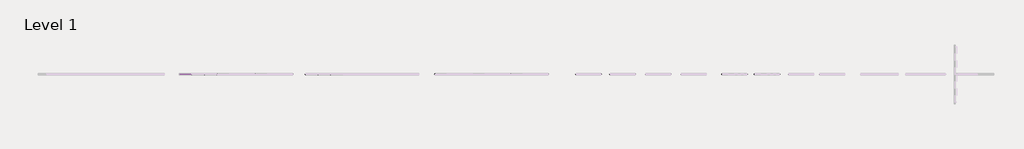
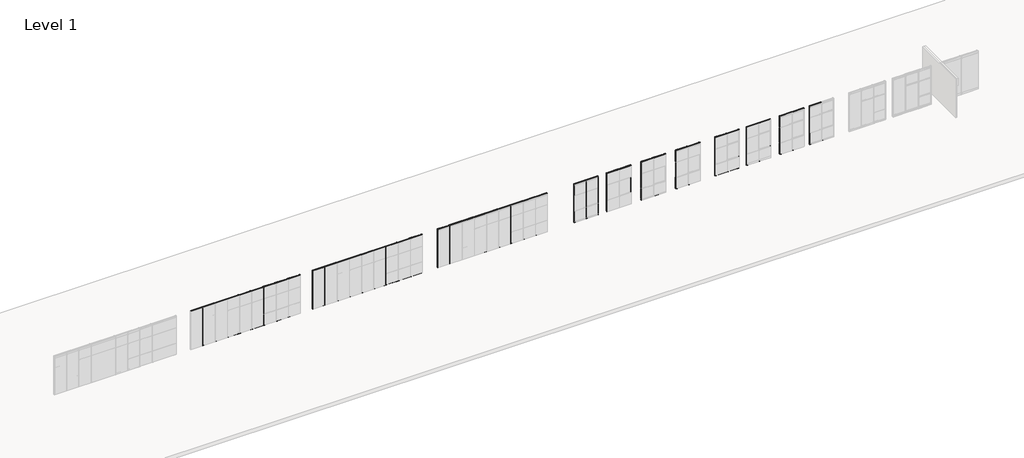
# One storey, part 2 of 22: 135 members.
"""IFC4 building model written with IfcOpenShell, lengths in millimetres."""

from ifc_helpers import new_model, si_unit, origin, place, context, project, spatial, transform, mapped, element, save
from components import rectangular_mullion_54c82f83, rectangular_mullion_553b35be, rectangular_mullion_d5ff06bb, rectangular_mullion_frame_teknion_vertical_post_05f5e206, rectangular_mullion_frame_teknion_vertical_post_5ea4eea9, rectangular_mullion_frame_teknion_vertical_post_1fa3a907

model = new_model("IFC4")

# Units and contexts
model_context = context("Model", 3, world=origin())
ifc_project = project(units=[si_unit("LENGTHUNIT", "METRE", prefix="MILLI")], contexts=[model_context])

# Site, building, storey
site = spatial("IfcSite", under=ifc_project)
building = spatial("IfcBuilding", under=site)
storey = spatial("IfcBuildingStorey", under=building, Name="Level 1", Elevation=0.0)

# Members
placement = place(None, origin())
rectangular_mullion_shape = rectangular_mullion_54c82f83(model_context)
element("IfcMember", 1, ObjectType="Rectangular Mullion : Frame-Teknion-Altos-Ceiling_Channel", at=placement, inside=storey, context=model_context, shape_type="MappedRepresentation", body=[
    mapped(rectangular_mullion_shape, transform((-22491.9930996, 1812.3522105, 3048.0), x_axis=(0.0, 0.0, 1.0), y_axis=(0.0, -1.0, 0.0), z_axis=(1.0, 0.0, 0.0))),
])
element("IfcMember", 2, ObjectType="Rectangular Mullion : Frame-Teknion-Altos-Ceiling_Channel", at=placement, inside=storey, context=model_context, shape_type="MappedRepresentation", body=[
    mapped(rectangular_mullion_shape, transform((-20028.1930996, 1812.3522105, 3048.0), x_axis=(0.0, 0.0, 1.0), y_axis=(0.0, -1.0, 0.0), z_axis=(1.0, 0.0, 0.0))),
])
element("IfcMember", 3, ObjectType="Rectangular Mullion : Frame-Teknion-Altos-Ceiling_Channel", at=placement, inside=storey, context=model_context, shape_type="MappedRepresentation", body=[
    mapped(rectangular_mullion_shape, transform((-17450.0930996, 1812.3522105, 3048.0), x_axis=(0.0, 0.0, 1.0), y_axis=(0.0, -1.0, 0.0), z_axis=(1.0, 0.0, 0.0))),
])
element("IfcMember", 4, ObjectType="Rectangular Mullion : Frame-Teknion-Altos-Ceiling_Channel", at=placement, inside=storey, context=model_context, shape_type="MappedRepresentation", body=[
    mapped(rectangular_mullion_shape, transform((-14871.9930996, 1812.3522105, 3048.0), x_axis=(0.0, 0.0, 1.0), y_axis=(0.0, -1.0, 0.0), z_axis=(1.0, 0.0, 0.0))),
])
element("IfcMember", 5, ObjectType="Rectangular Mullion : Frame-Teknion-Altos-Ceiling_Channel", at=placement, inside=storey, context=model_context, shape_type="MappedRepresentation", body=[
    mapped(rectangular_mullion_shape, transform((-44835.9484319, 1812.3522105, 3048.0), x_axis=(0.0, 0.0, 1.0), y_axis=(0.0, -1.0, 0.0), z_axis=(1.0, 0.0, 0.0))),
])
element("IfcMember", 6, ObjectType="Rectangular Mullion : Frame-Teknion-Altos-Ceiling_Channel", at=placement, inside=storey, context=model_context, shape_type="MappedRepresentation", body=[
    mapped(rectangular_mullion_shape, transform((-35691.9484319, 1812.3522105, 3048.0), x_axis=(0.0, 0.0, 1.0), y_axis=(0.0, -1.0, 0.0), z_axis=(1.0, 0.0, 0.0))),
])
element("IfcMember", 7, ObjectType="Rectangular Mullion : Frame-Teknion-Altos-Ceiling_Channel", at=placement, inside=storey, context=model_context, shape_type="MappedRepresentation", body=[
    mapped(rectangular_mullion_shape, transform((-26325.4676646, 1812.3522105, 3048.0), x_axis=(0.0, 0.0, 1.0), y_axis=(0.0, -1.0, 0.0), z_axis=(1.0, 0.0, 0.0))),
])
element("IfcMember", 8, ObjectType="Rectangular Mullion : Frame-Teknion-Altos-Ceiling_Channel", at=placement, inside=storey, context=model_context, shape_type="MappedRepresentation", body=[
    mapped(rectangular_mullion_shape, transform((-52137.1585882, 1812.3522105, 3048.0), x_axis=(0.0, 0.0, 1.0), y_axis=(0.0, -1.0, 0.0), z_axis=(1.0, 0.0, 0.0))),
])
element("IfcMember", 9, ObjectType="Rectangular Mullion : Frame-Teknion-Altos-Ceiling_Channel", at=placement, inside=storey, context=model_context, shape_type="MappedRepresentation", body=[
    mapped(rectangular_mullion_shape, transform((-42993.1585882, 1812.3522105, 3048.0), x_axis=(0.0, 0.0, 1.0), y_axis=(0.0, -1.0, 0.0), z_axis=(1.0, 0.0, 0.0))),
])
element("IfcMember", 10, ObjectType="Rectangular Mullion : Frame-Teknion-Altos-Ceiling_Channel", at=placement, inside=storey, context=model_context, shape_type="MappedRepresentation", body=[
    mapped(rectangular_mullion_shape, transform((-33626.6778208, 1812.3522105, 3048.0), x_axis=(0.0, 0.0, 1.0), y_axis=(0.0, -1.0, 0.0), z_axis=(1.0, 0.0, 0.0))),
])
element("IfcMember", 11, ObjectType="Rectangular Mullion : Frame-Teknion-Altos-Ceiling_Channel", at=placement, inside=storey, context=model_context, shape_type="MappedRepresentation", body=[
    mapped(rectangular_mullion_shape, transform((-23392.4032558, 1812.3522105, 3048.0), x_axis=(0.0, 0.0, 1.0), y_axis=(0.0, -1.0, 0.0), z_axis=(1.0, 0.0, 0.0))),
])
element("IfcMember", 12, ObjectType="Rectangular Mullion : Frame-Teknion-Altos-Ceiling_Channel", at=placement, inside=storey, context=model_context, shape_type="MappedRepresentation", body=[
    mapped(rectangular_mullion_shape, transform((-20928.6032558, 1812.3522105, 3048.0), x_axis=(0.0, 0.0, 1.0), y_axis=(0.0, -1.0, 0.0), z_axis=(1.0, 0.0, 0.0))),
])
element("IfcMember", 13, ObjectType="Rectangular Mullion : Frame-Teknion-Altos-Ceiling_Channel", at=placement, inside=storey, context=model_context, shape_type="MappedRepresentation", body=[
    mapped(rectangular_mullion_shape, transform((-18350.5032558, 1812.3522105, 3048.0), x_axis=(0.0, 0.0, 1.0), y_axis=(0.0, -1.0, 0.0), z_axis=(1.0, 0.0, 0.0))),
])
element("IfcMember", 14, ObjectType="Rectangular Mullion : Frame-Teknion-Altos-Ceiling_Channel", at=placement, inside=storey, context=model_context, shape_type="MappedRepresentation", body=[
    mapped(rectangular_mullion_shape, transform((-15772.4032558, 1812.3522105, 3048.0), x_axis=(0.0, 0.0, 1.0), y_axis=(0.0, -1.0, 0.0), z_axis=(1.0, 0.0, 0.0))),
])
element("IfcMember", 15, ObjectType="Rectangular Mullion : Frame-Teknion-Altos-Ceiling_Channel", at=placement, inside=storey, context=model_context, shape_type="MappedRepresentation", body=[
    mapped(rectangular_mullion_shape, transform((-11930.4756944, 1812.3522105, 3048.0), x_axis=(0.0, 0.0, 1.0), y_axis=(0.0, -1.0, 0.0), z_axis=(1.0, 0.0, 0.0))),
])
element("IfcMember", 16, ObjectType="Rectangular Mullion : Frame-Teknion-Altos-Ceiling_Channel", at=placement, inside=storey, context=model_context, shape_type="MappedRepresentation", body=[
    mapped(rectangular_mullion_shape, transform((-9568.2756944, 1812.3522105, 3048.0), x_axis=(0.0, 0.0, 1.0), y_axis=(0.0, -1.0, 0.0), z_axis=(1.0, 0.0, 0.0))),
])
element("IfcMember", 17, ObjectType="Rectangular Mullion : Frame-Teknion-Altos-Ceiling_Channel", at=placement, inside=storey, context=model_context, shape_type="MappedRepresentation", body=[
    mapped(rectangular_mullion_shape, transform((-7079.0756944, 1812.3522105, 3048.0), x_axis=(0.0, 0.0, 1.0), y_axis=(0.0, -1.0, 0.0), z_axis=(1.0, 0.0, 0.0))),
])
element("IfcMember", 18, ObjectType="Rectangular Mullion : Frame-Teknion-Altos-Ceiling_Channel", at=placement, inside=storey, context=model_context, shape_type="MappedRepresentation", body=[
    mapped(rectangular_mullion_shape, transform((-12830.8858507, 1812.3522105, 3048.0), x_axis=(0.0, 0.0, 1.0), y_axis=(0.0, -1.0, 0.0), z_axis=(1.0, 0.0, 0.0))),
])
element("IfcMember", 19, ObjectType="Rectangular Mullion : Frame-Teknion-Altos-Ceiling_Channel", at=placement, inside=storey, context=model_context, shape_type="MappedRepresentation", body=[
    mapped(rectangular_mullion_shape, transform((-10468.6858507, 1812.3522105, 3048.0), x_axis=(0.0, 0.0, 1.0), y_axis=(0.0, -1.0, 0.0), z_axis=(1.0, 0.0, 0.0))),
])
element("IfcMember", 20, ObjectType="Rectangular Mullion : Frame-Teknion-Altos-Ceiling_Channel", at=placement, inside=storey, context=model_context, shape_type="MappedRepresentation", body=[
    mapped(rectangular_mullion_shape, transform((-7979.4858507, 1812.3522105, 3048.0), x_axis=(0.0, 0.0, 1.0), y_axis=(0.0, -1.0, 0.0), z_axis=(1.0, 0.0, 0.0))),
])
element("IfcMember", 21, ObjectType="Rectangular Mullion : Frame-Teknion-Altos-Ceiling_Channel", at=placement, inside=storey, context=model_context, shape_type="MappedRepresentation", body=[
    mapped(rectangular_mullion_shape, transform((-5744.2858507, 1812.3522105, 3048.0), x_axis=(0.0, 0.0, 1.0), y_axis=(0.0, -1.0, 0.0), z_axis=(1.0, 0.0, 0.0))),
])
rectangular_mullion_2_shape = rectangular_mullion_553b35be(model_context)
element("IfcMember", 22, ObjectType="Rectangular Mullion : Frame-Teknion-Altos-Base_Channel", at=placement, inside=storey, context=model_context, shape_type="MappedRepresentation", body=[
    mapped(rectangular_mullion_2_shape, transform((-24264.8337246, 1812.3522105, 0.0), x_axis=(0.0, 0.0, -1.0), y_axis=(0.0, -1.0, 0.0), z_axis=(-1.0, 0.0, 0.0))),
])
element("IfcMember", 23, ObjectType="Rectangular Mullion : Frame-Teknion-Altos-Base_Channel", at=placement, inside=storey, context=model_context, shape_type="MappedRepresentation", body=[
    mapped(rectangular_mullion_2_shape, transform((-21801.0337246, 1812.3522105, 0.0), x_axis=(0.0, 0.0, -1.0), y_axis=(0.0, -1.0, 0.0), z_axis=(-1.0, 0.0, 0.0))),
])
element("IfcMember", 24, ObjectType="Rectangular Mullion : Frame-Teknion-Altos-Base_Channel", at=placement, inside=storey, context=model_context, shape_type="MappedRepresentation", body=[
    mapped(rectangular_mullion_2_shape, transform((-19222.9337246, 1812.3522105, 0.0), x_axis=(0.0, 0.0, -1.0), y_axis=(0.0, -1.0, 0.0), z_axis=(-1.0, 0.0, 0.0))),
])
element("IfcMember", 25, ObjectType="Rectangular Mullion : Frame-Teknion-Altos-Base_Channel", at=placement, inside=storey, context=model_context, shape_type="MappedRepresentation", body=[
    mapped(rectangular_mullion_2_shape, transform((-16644.8337246, 1812.3522105, 0.0), x_axis=(0.0, 0.0, -1.0), y_axis=(0.0, -1.0, 0.0), z_axis=(-1.0, 0.0, 0.0))),
])
element("IfcMember", 26, ObjectType="Rectangular Mullion : Frame-Teknion-Altos-Base_Channel", at=placement, inside=storey, context=model_context, shape_type="MappedRepresentation", body=[
    mapped(rectangular_mullion_2_shape, transform((-43865.5890569, 1812.3522105, 0.0), x_axis=(0.0, 0.0, -1.0), y_axis=(0.0, -1.0, 0.0), z_axis=(-1.0, 0.0, 0.0))),
])
element("IfcMember", 27, ObjectType="Rectangular Mullion : Frame-Teknion-Altos-Base_Channel", at=placement, inside=storey, context=model_context, shape_type="MappedRepresentation", body=[
    mapped(rectangular_mullion_2_shape, transform((-34499.1082896, 1812.3522105, 0.0), x_axis=(0.0, 0.0, -1.0), y_axis=(0.0, -1.0, 0.0), z_axis=(-1.0, 0.0, 0.0))),
])
element("IfcMember", 28, ObjectType="Rectangular Mullion : Frame-Teknion-Altos-Base_Channel", at=placement, inside=storey, context=model_context, shape_type="MappedRepresentation", body=[
    mapped(rectangular_mullion_2_shape, transform((-45708.3789007, 1812.3522105, 0.0), x_axis=(0.0, 0.0, -1.0), y_axis=(0.0, -1.0, 0.0), z_axis=(-1.0, 0.0, 0.0))),
])
element("IfcMember", 29, ObjectType="Rectangular Mullion : Frame-Teknion-Altos-Base_Channel", at=placement, inside=storey, context=model_context, shape_type="MappedRepresentation", body=[
    mapped(rectangular_mullion_2_shape, transform((-36564.3789007, 1812.3522105, 0.0), x_axis=(0.0, 0.0, -1.0), y_axis=(0.0, -1.0, 0.0), z_axis=(-1.0, 0.0, 0.0))),
])
element("IfcMember", 30, ObjectType="Rectangular Mullion : Frame-Teknion-Altos-Base_Channel", at=placement, inside=storey, context=model_context, shape_type="MappedRepresentation", body=[
    mapped(rectangular_mullion_2_shape, transform((-27197.8981333, 1812.3522105, 0.0), x_axis=(0.0, 0.0, -1.0), y_axis=(0.0, -1.0, 0.0), z_axis=(-1.0, 0.0, 0.0))),
])
element("IfcMember", 31, ObjectType="Rectangular Mullion : Frame-Teknion-Altos-Base_Channel", at=placement, inside=storey, context=model_context, shape_type="MappedRepresentation", body=[
    mapped(rectangular_mullion_2_shape, transform((-23364.4235683, 1812.3522105, 0.0), x_axis=(0.0, 0.0, -1.0), y_axis=(0.0, -1.0, 0.0), z_axis=(-1.0, 0.0, 0.0))),
])
element("IfcMember", 32, ObjectType="Rectangular Mullion : Frame-Teknion-Altos-Base_Channel", at=placement, inside=storey, context=model_context, shape_type="MappedRepresentation", body=[
    mapped(rectangular_mullion_2_shape, transform((-20900.6235683, 1812.3522105, 0.0), x_axis=(0.0, 0.0, -1.0), y_axis=(0.0, -1.0, 0.0), z_axis=(-1.0, 0.0, 0.0))),
])
element("IfcMember", 33, ObjectType="Rectangular Mullion : Frame-Teknion-Altos-Base_Channel", at=placement, inside=storey, context=model_context, shape_type="MappedRepresentation", body=[
    mapped(rectangular_mullion_2_shape, transform((-18322.5235683, 1812.3522105, 0.0), x_axis=(0.0, 0.0, -1.0), y_axis=(0.0, -1.0, 0.0), z_axis=(-1.0, 0.0, 0.0))),
])
element("IfcMember", 34, ObjectType="Rectangular Mullion : Frame-Teknion-Altos-Base_Channel", at=placement, inside=storey, context=model_context, shape_type="MappedRepresentation", body=[
    mapped(rectangular_mullion_2_shape, transform((-15744.4235683, 1812.3522105, 0.0), x_axis=(0.0, 0.0, -1.0), y_axis=(0.0, -1.0, 0.0), z_axis=(-1.0, 0.0, 0.0))),
])
element("IfcMember", 35, ObjectType="Rectangular Mullion : Frame-Teknion-Altos-Base_Channel", at=placement, inside=storey, context=model_context, shape_type="MappedRepresentation", body=[
    mapped(rectangular_mullion_2_shape, transform((-13703.3163194, 1812.3522105, 0.0), x_axis=(0.0, 0.0, -1.0), y_axis=(0.0, -1.0, 0.0), z_axis=(-1.0, 0.0, 0.0))),
])
element("IfcMember", 36, ObjectType="Rectangular Mullion : Frame-Teknion-Altos-Base_Channel", at=placement, inside=storey, context=model_context, shape_type="MappedRepresentation", body=[
    mapped(rectangular_mullion_2_shape, transform((-11341.1163194, 1812.3522105, 0.0), x_axis=(0.0, 0.0, -1.0), y_axis=(0.0, -1.0, 0.0), z_axis=(-1.0, 0.0, 0.0))),
])
element("IfcMember", 37, ObjectType="Rectangular Mullion : Frame-Teknion-Altos-Base_Channel", at=placement, inside=storey, context=model_context, shape_type="MappedRepresentation", body=[
    mapped(rectangular_mullion_2_shape, transform((-8851.9163194, 1812.3522105, 0.0), x_axis=(0.0, 0.0, -1.0), y_axis=(0.0, -1.0, 0.0), z_axis=(-1.0, 0.0, 0.0))),
])
element("IfcMember", 38, ObjectType="Rectangular Mullion : Frame-Teknion-Altos-Base_Channel", at=placement, inside=storey, context=model_context, shape_type="MappedRepresentation", body=[
    mapped(rectangular_mullion_2_shape, transform((-6616.7163194, 1812.3522105, 0.0), x_axis=(0.0, 0.0, -1.0), y_axis=(0.0, -1.0, 0.0), z_axis=(-1.0, 0.0, 0.0))),
])
element("IfcMember", 39, ObjectType="Rectangular Mullion : Frame-Teknion-Altos-Base_Channel", at=placement, inside=storey, context=model_context, shape_type="MappedRepresentation", body=[
    mapped(rectangular_mullion_2_shape, transform((-12802.9061632, 1812.3522105, 0.0), x_axis=(0.0, 0.0, -1.0), y_axis=(0.0, -1.0, 0.0), z_axis=(-1.0, 0.0, 0.0))),
])
element("IfcMember", 40, ObjectType="Rectangular Mullion : Frame-Teknion-Altos-Base_Channel", at=placement, inside=storey, context=model_context, shape_type="MappedRepresentation", body=[
    mapped(rectangular_mullion_2_shape, transform((-10440.7061632, 1812.3522105, 0.0), x_axis=(0.0, 0.0, -1.0), y_axis=(0.0, -1.0, 0.0), z_axis=(-1.0, 0.0, 0.0))),
])
element("IfcMember", 41, ObjectType="Rectangular Mullion : Frame-Teknion-Altos-Base_Channel", at=placement, inside=storey, context=model_context, shape_type="MappedRepresentation", body=[
    mapped(rectangular_mullion_2_shape, transform((-7951.5061632, 1812.3522105, 0.0), x_axis=(0.0, 0.0, -1.0), y_axis=(0.0, -1.0, 0.0), z_axis=(-1.0, 0.0, 0.0))),
])
element("IfcMember", 42, ObjectType="Rectangular Mullion : Frame-Teknion-Altos-Base_Channel", at=placement, inside=storey, context=model_context, shape_type="MappedRepresentation", body=[
    mapped(rectangular_mullion_2_shape, transform((-5716.3061632, 1812.3522105, 0.0), x_axis=(0.0, 0.0, -1.0), y_axis=(0.0, -1.0, 0.0), z_axis=(-1.0, 0.0, 0.0))),
])
rectangular_mullion_3_shape = rectangular_mullion_d5ff06bb(model_context)
element("IfcMember", 43, ObjectType="Rectangular Mullion : Frame-Teknion-Altos-Base_Channel", at=placement, inside=storey, context=model_context, shape_type="MappedRepresentation", body=[
    mapped(rectangular_mullion_3_shape, transform((-52109.1789007, 1812.3522105, 0.0), x_axis=(0.0, 0.0, -1.0), y_axis=(0.0, -1.0, 0.0), z_axis=(-1.0, 0.0, 0.0))),
])
element("IfcMember", 44, ObjectType="Rectangular Mullion : Frame-Teknion-Altos-Base_Channel", at=placement, inside=storey, context=model_context, shape_type="MappedRepresentation", body=[
    mapped(rectangular_mullion_3_shape, transform((-51194.7789007, 1812.3522105, 0.0), x_axis=(0.0, 0.0, -1.0), y_axis=(0.0, -1.0, 0.0), z_axis=(-1.0, 0.0, 0.0))),
])
element("IfcMember", 45, ObjectType="Rectangular Mullion : Frame-Teknion-Altos-Base_Channel", at=placement, inside=storey, context=model_context, shape_type="MappedRepresentation", body=[
    mapped(rectangular_mullion_3_shape, transform((-50280.3789007, 1812.3522105, 0.0), x_axis=(0.0, 0.0, -1.0), y_axis=(0.0, -1.0, 0.0), z_axis=(-1.0, 0.0, 0.0))),
])
element("IfcMember", 46, ObjectType="Rectangular Mullion : Frame-Teknion-Altos-Base_Channel", at=placement, inside=storey, context=model_context, shape_type="MappedRepresentation", body=[
    mapped(rectangular_mullion_3_shape, transform((-49365.9789007, 1812.3522105, 0.0), x_axis=(0.0, 0.0, -1.0), y_axis=(0.0, -1.0, 0.0), z_axis=(-1.0, 0.0, 0.0))),
])
element("IfcMember", 47, ObjectType="Rectangular Mullion : Frame-Teknion-Altos-Base_Channel", at=placement, inside=storey, context=model_context, shape_type="MappedRepresentation", body=[
    mapped(rectangular_mullion_3_shape, transform((-48451.5789007, 1812.3522105, 0.0), x_axis=(0.0, 0.0, -1.0), y_axis=(0.0, -1.0, 0.0), z_axis=(-1.0, 0.0, 0.0))),
])
element("IfcMember", 48, ObjectType="Rectangular Mullion : Frame-Teknion-Altos-Base_Channel", at=placement, inside=storey, context=model_context, shape_type="MappedRepresentation", body=[
    mapped(rectangular_mullion_3_shape, transform((-47537.1789007, 1812.3522105, 0.0), x_axis=(0.0, 0.0, -1.0), y_axis=(0.0, -1.0, 0.0), z_axis=(-1.0, 0.0, 0.0))),
])
element("IfcMember", 49, ObjectType="Rectangular Mullion : Frame-Teknion-Altos-Base_Channel", at=placement, inside=storey, context=model_context, shape_type="MappedRepresentation", body=[
    mapped(rectangular_mullion_3_shape, transform((-46622.7789007, 1812.3522105, 0.0), x_axis=(0.0, 0.0, -1.0), y_axis=(0.0, -1.0, 0.0), z_axis=(-1.0, 0.0, 0.0))),
])
element("IfcMember", 50, ObjectType="Rectangular Mullion : Frame-Teknion-Altos-Base_Channel", at=placement, inside=storey, context=model_context, shape_type="MappedRepresentation", body=[
    mapped(rectangular_mullion_3_shape, transform((-42965.1789007, 1812.3522105, 0.0), x_axis=(0.0, 0.0, -1.0), y_axis=(0.0, -1.0, 0.0), z_axis=(-1.0, 0.0, 0.0))),
])
element("IfcMember", 51, ObjectType="Rectangular Mullion : Frame-Teknion-Altos-Base_Channel", at=placement, inside=storey, context=model_context, shape_type="MappedRepresentation", body=[
    mapped(rectangular_mullion_3_shape, transform((-42050.7789007, 1812.3522105, 0.0), x_axis=(0.0, 0.0, -1.0), y_axis=(0.0, -1.0, 0.0), z_axis=(-1.0, 0.0, 0.0))),
])
element("IfcMember", 52, ObjectType="Rectangular Mullion : Frame-Teknion-Altos-Base_Channel", at=placement, inside=storey, context=model_context, shape_type="MappedRepresentation", body=[
    mapped(rectangular_mullion_3_shape, transform((-41136.3789007, 1812.3522105, 0.0), x_axis=(0.0, 0.0, -1.0), y_axis=(0.0, -1.0, 0.0), z_axis=(-1.0, 0.0, 0.0))),
])
element("IfcMember", 53, ObjectType="Rectangular Mullion : Frame-Teknion-Altos-Base_Channel", at=placement, inside=storey, context=model_context, shape_type="MappedRepresentation", body=[
    mapped(rectangular_mullion_3_shape, transform((-40221.9789007, 1812.3522105, 0.0), x_axis=(0.0, 0.0, -1.0), y_axis=(0.0, -1.0, 0.0), z_axis=(-1.0, 0.0, 0.0))),
])
element("IfcMember", 54, ObjectType="Rectangular Mullion : Frame-Teknion-Altos-Base_Channel", at=placement, inside=storey, context=model_context, shape_type="MappedRepresentation", body=[
    mapped(rectangular_mullion_3_shape, transform((-39307.5789007, 1812.3522105, 0.0), x_axis=(0.0, 0.0, -1.0), y_axis=(0.0, -1.0, 0.0), z_axis=(-1.0, 0.0, 0.0))),
])
element("IfcMember", 55, ObjectType="Rectangular Mullion : Frame-Teknion-Altos-Base_Channel", at=placement, inside=storey, context=model_context, shape_type="MappedRepresentation", body=[
    mapped(rectangular_mullion_3_shape, transform((-38393.1789007, 1812.3522105, 0.0), x_axis=(0.0, 0.0, -1.0), y_axis=(0.0, -1.0, 0.0), z_axis=(-1.0, 0.0, 0.0))),
])
element("IfcMember", 56, ObjectType="Rectangular Mullion : Frame-Teknion-Altos-Base_Channel", at=placement, inside=storey, context=model_context, shape_type="MappedRepresentation", body=[
    mapped(rectangular_mullion_3_shape, transform((-37478.7789007, 1812.3522105, 0.0), x_axis=(0.0, 0.0, -1.0), y_axis=(0.0, -1.0, 0.0), z_axis=(-1.0, 0.0, 0.0))),
])
element("IfcMember", 57, ObjectType="Rectangular Mullion : Frame-Teknion-Altos-Base_Channel", at=placement, inside=storey, context=model_context, shape_type="MappedRepresentation", body=[
    mapped(rectangular_mullion_3_shape, transform((-33598.6981333, 1812.3522105, 0.0), x_axis=(0.0, 0.0, -1.0), y_axis=(0.0, -1.0, 0.0), z_axis=(-1.0, 0.0, 0.0))),
])
element("IfcMember", 58, ObjectType="Rectangular Mullion : Frame-Teknion-Altos-Base_Channel", at=placement, inside=storey, context=model_context, shape_type="MappedRepresentation", body=[
    mapped(rectangular_mullion_3_shape, transform((-32684.2981333, 1812.3522105, 0.0), x_axis=(0.0, 0.0, -1.0), y_axis=(0.0, -1.0, 0.0), z_axis=(-1.0, 0.0, 0.0))),
])
element("IfcMember", 59, ObjectType="Rectangular Mullion : Frame-Teknion-Altos-Base_Channel", at=placement, inside=storey, context=model_context, shape_type="MappedRepresentation", body=[
    mapped(rectangular_mullion_3_shape, transform((-31769.8981333, 1812.3522105, 0.0), x_axis=(0.0, 0.0, -1.0), y_axis=(0.0, -1.0, 0.0), z_axis=(-1.0, 0.0, 0.0))),
])
element("IfcMember", 60, ObjectType="Rectangular Mullion : Frame-Teknion-Altos-Base_Channel", at=placement, inside=storey, context=model_context, shape_type="MappedRepresentation", body=[
    mapped(rectangular_mullion_3_shape, transform((-30855.4981333, 1812.3522105, 0.0), x_axis=(0.0, 0.0, -1.0), y_axis=(0.0, -1.0, 0.0), z_axis=(-1.0, 0.0, 0.0))),
])
element("IfcMember", 61, ObjectType="Rectangular Mullion : Frame-Teknion-Altos-Base_Channel", at=placement, inside=storey, context=model_context, shape_type="MappedRepresentation", body=[
    mapped(rectangular_mullion_3_shape, transform((-29941.0981333, 1812.3522105, 0.0), x_axis=(0.0, 0.0, -1.0), y_axis=(0.0, -1.0, 0.0), z_axis=(-1.0, 0.0, 0.0))),
])
element("IfcMember", 62, ObjectType="Rectangular Mullion : Frame-Teknion-Altos-Base_Channel", at=placement, inside=storey, context=model_context, shape_type="MappedRepresentation", body=[
    mapped(rectangular_mullion_3_shape, transform((-29026.6981333, 1812.3522105, 0.0), x_axis=(0.0, 0.0, -1.0), y_axis=(0.0, -1.0, 0.0), z_axis=(-1.0, 0.0, 0.0))),
])
element("IfcMember", 63, ObjectType="Rectangular Mullion : Frame-Teknion-Altos-Base_Channel", at=placement, inside=storey, context=model_context, shape_type="MappedRepresentation", body=[
    mapped(rectangular_mullion_3_shape, transform((-28112.2981333, 1812.3522105, 0.0), x_axis=(0.0, 0.0, -1.0), y_axis=(0.0, -1.0, 0.0), z_axis=(-1.0, 0.0, 0.0))),
])
element("IfcMember", 64, ObjectType="Rectangular Mullion : Frame-Teknion-Altos-Ceiling_Channel", at=placement, inside=storey, context=model_context, shape_type="MappedRepresentation", body=[
    mapped(rectangular_mullion_3_shape, transform((-51222.7585882, 1812.3522105, 3048.0), x_axis=(0.0, 0.0, 1.0), y_axis=(0.0, -1.0, 0.0), z_axis=(1.0, 0.0, 0.0))),
])
element("IfcMember", 65, ObjectType="Rectangular Mullion : Frame-Teknion-Altos-Ceiling_Channel", at=placement, inside=storey, context=model_context, shape_type="MappedRepresentation", body=[
    mapped(rectangular_mullion_3_shape, transform((-50308.3585882, 1812.3522105, 3048.0), x_axis=(0.0, 0.0, 1.0), y_axis=(0.0, -1.0, 0.0), z_axis=(1.0, 0.0, 0.0))),
])
element("IfcMember", 66, ObjectType="Rectangular Mullion : Frame-Teknion-Altos-Ceiling_Channel", at=placement, inside=storey, context=model_context, shape_type="MappedRepresentation", body=[
    mapped(rectangular_mullion_3_shape, transform((-49393.9585882, 1812.3522105, 3048.0), x_axis=(0.0, 0.0, 1.0), y_axis=(0.0, -1.0, 0.0), z_axis=(1.0, 0.0, 0.0))),
])
element("IfcMember", 67, ObjectType="Rectangular Mullion : Frame-Teknion-Altos-Ceiling_Channel", at=placement, inside=storey, context=model_context, shape_type="MappedRepresentation", body=[
    mapped(rectangular_mullion_3_shape, transform((-48479.5585882, 1812.3522105, 3048.0), x_axis=(0.0, 0.0, 1.0), y_axis=(0.0, -1.0, 0.0), z_axis=(1.0, 0.0, 0.0))),
])
element("IfcMember", 68, ObjectType="Rectangular Mullion : Frame-Teknion-Altos-Ceiling_Channel", at=placement, inside=storey, context=model_context, shape_type="MappedRepresentation", body=[
    mapped(rectangular_mullion_3_shape, transform((-47565.1585882, 1812.3522105, 3048.0), x_axis=(0.0, 0.0, 1.0), y_axis=(0.0, -1.0, 0.0), z_axis=(1.0, 0.0, 0.0))),
])
element("IfcMember", 69, ObjectType="Rectangular Mullion : Frame-Teknion-Altos-Ceiling_Channel", at=placement, inside=storey, context=model_context, shape_type="MappedRepresentation", body=[
    mapped(rectangular_mullion_3_shape, transform((-46650.7585882, 1812.3522105, 3048.0), x_axis=(0.0, 0.0, 1.0), y_axis=(0.0, -1.0, 0.0), z_axis=(1.0, 0.0, 0.0))),
])
element("IfcMember", 70, ObjectType="Rectangular Mullion : Frame-Teknion-Altos-Ceiling_Channel", at=placement, inside=storey, context=model_context, shape_type="MappedRepresentation", body=[
    mapped(rectangular_mullion_3_shape, transform((-45736.3585882, 1812.3522105, 3048.0), x_axis=(0.0, 0.0, 1.0), y_axis=(0.0, -1.0, 0.0), z_axis=(1.0, 0.0, 0.0))),
])
element("IfcMember", 71, ObjectType="Rectangular Mullion : Frame-Teknion-Altos-Ceiling_Channel", at=placement, inside=storey, context=model_context, shape_type="MappedRepresentation", body=[
    mapped(rectangular_mullion_3_shape, transform((-42078.7585882, 1812.3522105, 3048.0), x_axis=(0.0, 0.0, 1.0), y_axis=(0.0, -1.0, 0.0), z_axis=(1.0, 0.0, 0.0))),
])
element("IfcMember", 72, ObjectType="Rectangular Mullion : Frame-Teknion-Altos-Ceiling_Channel", at=placement, inside=storey, context=model_context, shape_type="MappedRepresentation", body=[
    mapped(rectangular_mullion_3_shape, transform((-41164.3585882, 1812.3522105, 3048.0), x_axis=(0.0, 0.0, 1.0), y_axis=(0.0, -1.0, 0.0), z_axis=(1.0, 0.0, 0.0))),
])
element("IfcMember", 73, ObjectType="Rectangular Mullion : Frame-Teknion-Altos-Ceiling_Channel", at=placement, inside=storey, context=model_context, shape_type="MappedRepresentation", body=[
    mapped(rectangular_mullion_3_shape, transform((-40249.9585882, 1812.3522105, 3048.0), x_axis=(0.0, 0.0, 1.0), y_axis=(0.0, -1.0, 0.0), z_axis=(1.0, 0.0, 0.0))),
])
element("IfcMember", 74, ObjectType="Rectangular Mullion : Frame-Teknion-Altos-Ceiling_Channel", at=placement, inside=storey, context=model_context, shape_type="MappedRepresentation", body=[
    mapped(rectangular_mullion_3_shape, transform((-39335.5585882, 1812.3522105, 3048.0), x_axis=(0.0, 0.0, 1.0), y_axis=(0.0, -1.0, 0.0), z_axis=(1.0, 0.0, 0.0))),
])
element("IfcMember", 75, ObjectType="Rectangular Mullion : Frame-Teknion-Altos-Ceiling_Channel", at=placement, inside=storey, context=model_context, shape_type="MappedRepresentation", body=[
    mapped(rectangular_mullion_3_shape, transform((-38421.1585882, 1812.3522105, 3048.0), x_axis=(0.0, 0.0, 1.0), y_axis=(0.0, -1.0, 0.0), z_axis=(1.0, 0.0, 0.0))),
])
element("IfcMember", 76, ObjectType="Rectangular Mullion : Frame-Teknion-Altos-Ceiling_Channel", at=placement, inside=storey, context=model_context, shape_type="MappedRepresentation", body=[
    mapped(rectangular_mullion_3_shape, transform((-37506.7585882, 1812.3522105, 3048.0), x_axis=(0.0, 0.0, 1.0), y_axis=(0.0, -1.0, 0.0), z_axis=(1.0, 0.0, 0.0))),
])
element("IfcMember", 77, ObjectType="Rectangular Mullion : Frame-Teknion-Altos-Ceiling_Channel", at=placement, inside=storey, context=model_context, shape_type="MappedRepresentation", body=[
    mapped(rectangular_mullion_3_shape, transform((-36592.3585882, 1812.3522105, 3048.0), x_axis=(0.0, 0.0, 1.0), y_axis=(0.0, -1.0, 0.0), z_axis=(1.0, 0.0, 0.0))),
])
element("IfcMember", 78, ObjectType="Rectangular Mullion : Frame-Teknion-Altos-Ceiling_Channel", at=placement, inside=storey, context=model_context, shape_type="MappedRepresentation", body=[
    mapped(rectangular_mullion_3_shape, transform((-32712.2778208, 1812.3522105, 3048.0), x_axis=(0.0, 0.0, 1.0), y_axis=(0.0, -1.0, 0.0), z_axis=(1.0, 0.0, 0.0))),
])
element("IfcMember", 79, ObjectType="Rectangular Mullion : Frame-Teknion-Altos-Ceiling_Channel", at=placement, inside=storey, context=model_context, shape_type="MappedRepresentation", body=[
    mapped(rectangular_mullion_3_shape, transform((-31797.8778208, 1812.3522105, 3048.0), x_axis=(0.0, 0.0, 1.0), y_axis=(0.0, -1.0, 0.0), z_axis=(1.0, 0.0, 0.0))),
])
element("IfcMember", 80, ObjectType="Rectangular Mullion : Frame-Teknion-Altos-Ceiling_Channel", at=placement, inside=storey, context=model_context, shape_type="MappedRepresentation", body=[
    mapped(rectangular_mullion_3_shape, transform((-30883.4778208, 1812.3522105, 3048.0), x_axis=(0.0, 0.0, 1.0), y_axis=(0.0, -1.0, 0.0), z_axis=(1.0, 0.0, 0.0))),
])
element("IfcMember", 81, ObjectType="Rectangular Mullion : Frame-Teknion-Altos-Ceiling_Channel", at=placement, inside=storey, context=model_context, shape_type="MappedRepresentation", body=[
    mapped(rectangular_mullion_3_shape, transform((-29969.0778208, 1812.3522105, 3048.0), x_axis=(0.0, 0.0, 1.0), y_axis=(0.0, -1.0, 0.0), z_axis=(1.0, 0.0, 0.0))),
])
element("IfcMember", 82, ObjectType="Rectangular Mullion : Frame-Teknion-Altos-Ceiling_Channel", at=placement, inside=storey, context=model_context, shape_type="MappedRepresentation", body=[
    mapped(rectangular_mullion_3_shape, transform((-27225.8778208, 1812.3522105, 3048.0), x_axis=(0.0, 0.0, 1.0), y_axis=(0.0, -1.0, 0.0), z_axis=(1.0, 0.0, 0.0))),
])
element("IfcMember", 83, ObjectType="Rectangular Mullion : Frame-Teknion-Altos-Ceiling_Channel", at=placement, inside=storey, context=model_context, shape_type="MappedRepresentation", body=[
    mapped(rectangular_mullion_3_shape, transform((-29054.6778208, 1812.3522105, 3048.0), x_axis=(0.0, 0.0, 1.0), y_axis=(0.0, -1.0, 0.0), z_axis=(1.0, 0.0, 0.0))),
])
element("IfcMember", 84, ObjectType="Rectangular Mullion : Frame-Teknion-Altos-Ceiling_Channel", at=placement, inside=storey, context=model_context, shape_type="MappedRepresentation", body=[
    mapped(rectangular_mullion_3_shape, transform((-28140.2778208, 1812.3522105, 3048.0), x_axis=(0.0, 0.0, 1.0), y_axis=(0.0, -1.0, 0.0), z_axis=(1.0, 0.0, 0.0))),
])
rectangular_mullion_frame_teknion_vertical_post_shape = rectangular_mullion_frame_teknion_vertical_post_05f5e206(model_context)
element("IfcMember", 85, ObjectType="Rectangular Mullion : Frame-Teknion-Vertical_Post", at=placement, inside=storey, context=model_context, shape_type="MappedRepresentation", body=[
    mapped(rectangular_mullion_frame_teknion_vertical_post_shape, transform((-52123.1687444, 1812.3522105, 0.0), x_axis=(1.0, 0.0, 0.0), y_axis=(0.0, -1.0, 0.0), z_axis=(0.0, 0.0, -1.0))),
])
element("IfcMember", 86, ObjectType="Rectangular Mullion : Frame-Teknion-Vertical_Post", at=placement, inside=storey, context=model_context, shape_type="MappedRepresentation", body=[
    mapped(rectangular_mullion_frame_teknion_vertical_post_shape, transform((-51208.7687444, 1812.3522105, 0.0), x_axis=(1.0, 0.0, 0.0), y_axis=(0.0, -1.0, 0.0), z_axis=(0.0, 0.0, -1.0))),
])
element("IfcMember", 87, ObjectType="Rectangular Mullion : Frame-Teknion-Vertical_Post", at=placement, inside=storey, context=model_context, shape_type="MappedRepresentation", body=[
    mapped(rectangular_mullion_frame_teknion_vertical_post_shape, transform((-50294.3687444, 1812.3522105, 0.0), x_axis=(1.0, 0.0, 0.0), y_axis=(0.0, -1.0, 0.0), z_axis=(0.0, 0.0, -1.0))),
])
element("IfcMember", 88, ObjectType="Rectangular Mullion : Frame-Teknion-Vertical_Post", at=placement, inside=storey, context=model_context, shape_type="MappedRepresentation", body=[
    mapped(rectangular_mullion_frame_teknion_vertical_post_shape, transform((-49379.9687444, 1812.3522105, 0.0), x_axis=(1.0, 0.0, 0.0), y_axis=(0.0, -1.0, 0.0), z_axis=(0.0, 0.0, -1.0))),
])
element("IfcMember", 89, ObjectType="Rectangular Mullion : Frame-Teknion-Vertical_Post", at=placement, inside=storey, context=model_context, shape_type="MappedRepresentation", body=[
    mapped(rectangular_mullion_frame_teknion_vertical_post_shape, transform((-48465.5687444, 1812.3522105, 0.0), x_axis=(1.0, 0.0, 0.0), y_axis=(0.0, -1.0, 0.0), z_axis=(0.0, 0.0, -1.0))),
])
element("IfcMember", 90, ObjectType="Rectangular Mullion : Frame-Teknion-Vertical_Post", at=placement, inside=storey, context=model_context, shape_type="MappedRepresentation", body=[
    mapped(rectangular_mullion_frame_teknion_vertical_post_shape, transform((-47551.1687444, 1812.3522105, 0.0), x_axis=(1.0, 0.0, 0.0), y_axis=(0.0, -1.0, 0.0), z_axis=(0.0, 0.0, -1.0))),
])
element("IfcMember", 91, ObjectType="Rectangular Mullion : Frame-Teknion-Vertical_Post", at=placement, inside=storey, context=model_context, shape_type="MappedRepresentation", body=[
    mapped(rectangular_mullion_frame_teknion_vertical_post_shape, transform((-46636.7687444, 1812.3522105, 0.0), x_axis=(1.0, 0.0, 0.0), y_axis=(0.0, -1.0, 0.0), z_axis=(0.0, 0.0, -1.0))),
])
element("IfcMember", 92, ObjectType="Rectangular Mullion : Frame-Teknion-Vertical_Post", at=placement, inside=storey, context=model_context, shape_type="MappedRepresentation", body=[
    mapped(rectangular_mullion_frame_teknion_vertical_post_shape, transform((-45722.3687444, 1812.3522105, 0.0), x_axis=(1.0, 0.0, 0.0), y_axis=(0.0, -1.0, 0.0), z_axis=(0.0, 0.0, -1.0))),
])
element("IfcMember", 93, ObjectType="Rectangular Mullion : Frame-Teknion-Vertical_Post", at=placement, inside=storey, context=model_context, shape_type="MappedRepresentation", body=[
    mapped(rectangular_mullion_frame_teknion_vertical_post_shape, transform((-42979.1687444, 1812.3522105, 0.0), x_axis=(1.0, 0.0, 0.0), y_axis=(0.0, -1.0, 0.0), z_axis=(0.0, 0.0, -1.0))),
])
element("IfcMember", 94, ObjectType="Rectangular Mullion : Frame-Teknion-Vertical_Post", at=placement, inside=storey, context=model_context, shape_type="MappedRepresentation", body=[
    mapped(rectangular_mullion_frame_teknion_vertical_post_shape, transform((-42064.7687444, 1812.3522105, 0.0), x_axis=(1.0, 0.0, 0.0), y_axis=(0.0, -1.0, 0.0), z_axis=(0.0, 0.0, -1.0))),
])
element("IfcMember", 95, ObjectType="Rectangular Mullion : Frame-Teknion-Vertical_Post", at=placement, inside=storey, context=model_context, shape_type="MappedRepresentation", body=[
    mapped(rectangular_mullion_frame_teknion_vertical_post_shape, transform((-41150.3687444, 1812.3522105, 0.0), x_axis=(1.0, 0.0, 0.0), y_axis=(0.0, -1.0, 0.0), z_axis=(0.0, 0.0, -1.0))),
])
element("IfcMember", 96, ObjectType="Rectangular Mullion : Frame-Teknion-Vertical_Post", at=placement, inside=storey, context=model_context, shape_type="MappedRepresentation", body=[
    mapped(rectangular_mullion_frame_teknion_vertical_post_shape, transform((-40235.9687444, 1812.3522105, 0.0), x_axis=(1.0, 0.0, 0.0), y_axis=(0.0, -1.0, 0.0), z_axis=(0.0, 0.0, -1.0))),
])
element("IfcMember", 97, ObjectType="Rectangular Mullion : Frame-Teknion-Vertical_Post", at=placement, inside=storey, context=model_context, shape_type="MappedRepresentation", body=[
    mapped(rectangular_mullion_frame_teknion_vertical_post_shape, transform((-39321.5687444, 1812.3522105, 0.0), x_axis=(1.0, 0.0, 0.0), y_axis=(0.0, -1.0, 0.0), z_axis=(0.0, 0.0, -1.0))),
])
element("IfcMember", 98, ObjectType="Rectangular Mullion : Frame-Teknion-Vertical_Post", at=placement, inside=storey, context=model_context, shape_type="MappedRepresentation", body=[
    mapped(rectangular_mullion_frame_teknion_vertical_post_shape, transform((-38407.1687444, 1812.3522105, 0.0), x_axis=(1.0, 0.0, 0.0), y_axis=(0.0, -1.0, 0.0), z_axis=(0.0, 0.0, -1.0))),
])
element("IfcMember", 99, ObjectType="Rectangular Mullion : Frame-Teknion-Vertical_Post", at=placement, inside=storey, context=model_context, shape_type="MappedRepresentation", body=[
    mapped(rectangular_mullion_frame_teknion_vertical_post_shape, transform((-37492.7687444, 1812.3522105, 0.0), x_axis=(1.0, 0.0, 0.0), y_axis=(0.0, -1.0, 0.0), z_axis=(0.0, 0.0, -1.0))),
])
element("IfcMember", 100, ObjectType="Rectangular Mullion : Frame-Teknion-Vertical_Post", at=placement, inside=storey, context=model_context, shape_type="MappedRepresentation", body=[
    mapped(rectangular_mullion_frame_teknion_vertical_post_shape, transform((-36578.3687444, 1812.3522105, 0.0), x_axis=(1.0, 0.0, 0.0), y_axis=(0.0, -1.0, 0.0), z_axis=(0.0, 0.0, -1.0))),
])
element("IfcMember", 101, ObjectType="Rectangular Mullion : Frame-Teknion-Vertical_Post", at=placement, inside=storey, context=model_context, shape_type="MappedRepresentation", body=[
    mapped(rectangular_mullion_frame_teknion_vertical_post_shape, transform((-33612.6879771, 1812.3522105, 0.0), x_axis=(1.0, 0.0, 0.0), y_axis=(0.0, -1.0, 0.0), z_axis=(0.0, 0.0, -1.0))),
])
element("IfcMember", 102, ObjectType="Rectangular Mullion : Frame-Teknion-Vertical_Post", at=placement, inside=storey, context=model_context, shape_type="MappedRepresentation", body=[
    mapped(rectangular_mullion_frame_teknion_vertical_post_shape, transform((-32698.2879771, 1812.3522105, 0.0), x_axis=(1.0, 0.0, 0.0), y_axis=(0.0, -1.0, 0.0), z_axis=(0.0, 0.0, -1.0))),
])
element("IfcMember", 103, ObjectType="Rectangular Mullion : Frame-Teknion-Vertical_Post", at=placement, inside=storey, context=model_context, shape_type="MappedRepresentation", body=[
    mapped(rectangular_mullion_frame_teknion_vertical_post_shape, transform((-31783.8879771, 1812.3522105, 0.0), x_axis=(1.0, 0.0, 0.0), y_axis=(0.0, -1.0, 0.0), z_axis=(0.0, 0.0, -1.0))),
])
element("IfcMember", 104, ObjectType="Rectangular Mullion : Frame-Teknion-Vertical_Post", at=placement, inside=storey, context=model_context, shape_type="MappedRepresentation", body=[
    mapped(rectangular_mullion_frame_teknion_vertical_post_shape, transform((-30869.4879771, 1812.3522105, 0.0), x_axis=(1.0, 0.0, 0.0), y_axis=(0.0, -1.0, 0.0), z_axis=(0.0, 0.0, -1.0))),
])
element("IfcMember", 105, ObjectType="Rectangular Mullion : Frame-Teknion-Vertical_Post", at=placement, inside=storey, context=model_context, shape_type="MappedRepresentation", body=[
    mapped(rectangular_mullion_frame_teknion_vertical_post_shape, transform((-29955.0879771, 1812.3522105, 0.0), x_axis=(1.0, 0.0, 0.0), y_axis=(0.0, -1.0, 0.0), z_axis=(0.0, 0.0, -1.0))),
])
element("IfcMember", 106, ObjectType="Rectangular Mullion : Frame-Teknion-Vertical_Post", at=placement, inside=storey, context=model_context, shape_type="MappedRepresentation", body=[
    mapped(rectangular_mullion_frame_teknion_vertical_post_shape, transform((-27211.8879771, 1812.3522105, 0.0), x_axis=(1.0, 0.0, 0.0), y_axis=(0.0, -1.0, 0.0), z_axis=(0.0, 0.0, -1.0))),
])
element("IfcMember", 107, ObjectType="Rectangular Mullion : Frame-Teknion-Vertical_Post", at=placement, inside=storey, context=model_context, shape_type="MappedRepresentation", body=[
    mapped(rectangular_mullion_frame_teknion_vertical_post_shape, transform((-29040.6879771, 1812.3522105, 0.0), x_axis=(1.0, 0.0, 0.0), y_axis=(0.0, -1.0, 0.0), z_axis=(0.0, 0.0, -1.0))),
])
element("IfcMember", 108, ObjectType="Rectangular Mullion : Frame-Teknion-Vertical_Post", at=placement, inside=storey, context=model_context, shape_type="MappedRepresentation", body=[
    mapped(rectangular_mullion_frame_teknion_vertical_post_shape, transform((-28126.2879771, 1812.3522105, 0.0), x_axis=(1.0, 0.0, 0.0), y_axis=(0.0, -1.0, 0.0), z_axis=(0.0, 0.0, -1.0))),
])
element("IfcMember", 109, ObjectType="Rectangular Mullion : Frame-Teknion-Vertical_Post", at=placement, inside=storey, context=model_context, shape_type="MappedRepresentation", body=[
    mapped(rectangular_mullion_frame_teknion_vertical_post_shape, transform((-23378.4134121, 1812.3522105, 0.0), x_axis=(1.0, 0.0, 0.0), y_axis=(0.0, -1.0, 0.0), z_axis=(0.0, 0.0, -1.0))),
])
element("IfcMember", 110, ObjectType="Rectangular Mullion : Frame-Teknion-Vertical_Post", at=placement, inside=storey, context=model_context, shape_type="MappedRepresentation", body=[
    mapped(rectangular_mullion_frame_teknion_vertical_post_shape, transform((-20914.6134121, 1812.3522105, 0.0), x_axis=(1.0, 0.0, 0.0), y_axis=(0.0, -1.0, 0.0), z_axis=(0.0, 0.0, -1.0))),
])
element("IfcMember", 111, ObjectType="Rectangular Mullion : Frame-Teknion-Vertical_Post", at=placement, inside=storey, context=model_context, shape_type="MappedRepresentation", body=[
    mapped(rectangular_mullion_frame_teknion_vertical_post_shape, transform((-18336.5134121, 1812.3522105, 0.0), x_axis=(1.0, 0.0, 0.0), y_axis=(0.0, -1.0, 0.0), z_axis=(0.0, 0.0, -1.0))),
])
element("IfcMember", 112, ObjectType="Rectangular Mullion : Frame-Teknion-Vertical_Post", at=placement, inside=storey, context=model_context, shape_type="MappedRepresentation", body=[
    mapped(rectangular_mullion_frame_teknion_vertical_post_shape, transform((-15758.4134121, 1812.3522105, 0.0), x_axis=(1.0, 0.0, 0.0), y_axis=(0.0, -1.0, 0.0), z_axis=(0.0, 0.0, -1.0))),
])
element("IfcMember", 113, ObjectType="Rectangular Mullion : Frame-Teknion-Vertical_Post", at=placement, inside=storey, context=model_context, shape_type="MappedRepresentation", body=[
    mapped(rectangular_mullion_frame_teknion_vertical_post_shape, transform((-12816.8960069, 1812.3522105, 0.0), x_axis=(1.0, 0.0, 0.0), y_axis=(0.0, -1.0, 0.0), z_axis=(0.0, 0.0, -1.0))),
])
element("IfcMember", 114, ObjectType="Rectangular Mullion : Frame-Teknion-Vertical_Post", at=placement, inside=storey, context=model_context, shape_type="MappedRepresentation", body=[
    mapped(rectangular_mullion_frame_teknion_vertical_post_shape, transform((-10454.6960069, 1812.3522105, 0.0), x_axis=(1.0, 0.0, 0.0), y_axis=(0.0, -1.0, 0.0), z_axis=(0.0, 0.0, -1.0))),
])
element("IfcMember", 115, ObjectType="Rectangular Mullion : Frame-Teknion-Vertical_Post", at=placement, inside=storey, context=model_context, shape_type="MappedRepresentation", body=[
    mapped(rectangular_mullion_frame_teknion_vertical_post_shape, transform((-7965.4960069, 1812.3522105, 0.0), x_axis=(1.0, 0.0, 0.0), y_axis=(0.0, -1.0, 0.0), z_axis=(0.0, 0.0, -1.0))),
])
rectangular_mullion_frame_teknion_vertical_post_2_shape = rectangular_mullion_frame_teknion_vertical_post_5ea4eea9(model_context)
element("IfcMember", 116, ObjectType="Rectangular Mullion : Frame-Teknion-Vertical_Post", at=placement, inside=storey, context=model_context, shape_type="MappedRepresentation", body=[
    mapped(rectangular_mullion_frame_teknion_vertical_post_2_shape, transform((-22464.0134121, 1812.3522105, 0.0), x_axis=(1.0, 0.0, 0.0), y_axis=(0.0, -1.0, 0.0), z_axis=(0.0, 0.0, -1.0))),
])
element("IfcMember", 117, ObjectType="Rectangular Mullion : Frame-Teknion-Vertical_Post", at=placement, inside=storey, context=model_context, shape_type="MappedRepresentation", body=[
    mapped(rectangular_mullion_frame_teknion_vertical_post_2_shape, transform((-20000.2134121, 1812.3522105, 0.0), x_axis=(1.0, 0.0, 0.0), y_axis=(0.0, -1.0, 0.0), z_axis=(0.0, 0.0, -1.0))),
])
element("IfcMember", 118, ObjectType="Rectangular Mullion : Frame-Teknion-Vertical_Post", at=placement, inside=storey, context=model_context, shape_type="MappedRepresentation", body=[
    mapped(rectangular_mullion_frame_teknion_vertical_post_2_shape, transform((-17422.1134121, 1812.3522105, 0.0), x_axis=(1.0, 0.0, 0.0), y_axis=(0.0, -1.0, 0.0), z_axis=(0.0, 0.0, -1.0))),
])
element("IfcMember", 119, ObjectType="Rectangular Mullion : Frame-Teknion-Vertical_Post", at=placement, inside=storey, context=model_context, shape_type="MappedRepresentation", body=[
    mapped(rectangular_mullion_frame_teknion_vertical_post_2_shape, transform((-14844.0134121, 1812.3522105, 0.0), x_axis=(1.0, 0.0, 0.0), y_axis=(0.0, -1.0, 0.0), z_axis=(0.0, 0.0, -1.0))),
])
element("IfcMember", 120, ObjectType="Rectangular Mullion : Frame-Teknion-Vertical_Post", at=placement, inside=storey, context=model_context, shape_type="MappedRepresentation", body=[
    mapped(rectangular_mullion_frame_teknion_vertical_post_2_shape, transform((-44807.9687444, 1812.3522105, 0.0), x_axis=(1.0, 0.0, 0.0), y_axis=(0.0, -1.0, 0.0), z_axis=(0.0, 0.0, -1.0))),
])
element("IfcMember", 121, ObjectType="Rectangular Mullion : Frame-Teknion-Vertical_Post", at=placement, inside=storey, context=model_context, shape_type="MappedRepresentation", body=[
    mapped(rectangular_mullion_frame_teknion_vertical_post_2_shape, transform((-35663.9687444, 1812.3522105, 0.0), x_axis=(1.0, 0.0, 0.0), y_axis=(0.0, -1.0, 0.0), z_axis=(0.0, 0.0, -1.0))),
])
element("IfcMember", 122, ObjectType="Rectangular Mullion : Frame-Teknion-Vertical_Post", at=placement, inside=storey, context=model_context, shape_type="MappedRepresentation", body=[
    mapped(rectangular_mullion_frame_teknion_vertical_post_2_shape, transform((-26297.4879771, 1812.3522105, 0.0), x_axis=(1.0, 0.0, 0.0), y_axis=(0.0, -1.0, 0.0), z_axis=(0.0, 0.0, -1.0))),
])
element("IfcMember", 123, ObjectType="Rectangular Mullion : Frame-Teknion-Vertical_Post", at=placement, inside=storey, context=model_context, shape_type="MappedRepresentation", body=[
    mapped(rectangular_mullion_frame_teknion_vertical_post_2_shape, transform((-11902.4960069, 1812.3522105, 0.0), x_axis=(1.0, 0.0, 0.0), y_axis=(0.0, -1.0, 0.0), z_axis=(0.0, 0.0, -1.0))),
])
element("IfcMember", 124, ObjectType="Rectangular Mullion : Frame-Teknion-Vertical_Post", at=placement, inside=storey, context=model_context, shape_type="MappedRepresentation", body=[
    mapped(rectangular_mullion_frame_teknion_vertical_post_2_shape, transform((-9540.2960069, 1812.3522105, 0.0), x_axis=(1.0, 0.0, 0.0), y_axis=(0.0, -1.0, 0.0), z_axis=(0.0, 0.0, -1.0))),
])
element("IfcMember", 125, ObjectType="Rectangular Mullion : Frame-Teknion-Vertical_Post", at=placement, inside=storey, context=model_context, shape_type="MappedRepresentation", body=[
    mapped(rectangular_mullion_frame_teknion_vertical_post_2_shape, transform((-7051.0960069, 1812.3522105, 0.0), x_axis=(1.0, 0.0, 0.0), y_axis=(0.0, -1.0, 0.0), z_axis=(0.0, 0.0, -1.0))),
])
rectangular_mullion_frame_teknion_vertical_post_3_shape = rectangular_mullion_frame_teknion_vertical_post_1fa3a907(model_context)
element("IfcMember", 126, ObjectType="Rectangular Mullion : Frame-Teknion-Vertical_Post", at=placement, inside=storey, context=model_context, shape_type="MappedRepresentation", body=[
    mapped(rectangular_mullion_frame_teknion_vertical_post_3_shape, transform((-24292.8134121, 1812.3522105, 3048.0), x_axis=(-1.0, 0.0, 0.0), y_axis=(0.0, -1.0, 0.0), z_axis=(0.0, 0.0, 1.0))),
])
element("IfcMember", 127, ObjectType="Rectangular Mullion : Frame-Teknion-Vertical_Post", at=placement, inside=storey, context=model_context, shape_type="MappedRepresentation", body=[
    mapped(rectangular_mullion_frame_teknion_vertical_post_3_shape, transform((-21829.0134121, 1812.3522105, 3048.0), x_axis=(-1.0, 0.0, 0.0), y_axis=(0.0, -1.0, 0.0), z_axis=(0.0, 0.0, 1.0))),
])
element("IfcMember", 128, ObjectType="Rectangular Mullion : Frame-Teknion-Vertical_Post", at=placement, inside=storey, context=model_context, shape_type="MappedRepresentation", body=[
    mapped(rectangular_mullion_frame_teknion_vertical_post_3_shape, transform((-19250.9134121, 1812.3522105, 3048.0), x_axis=(-1.0, 0.0, 0.0), y_axis=(0.0, -1.0, 0.0), z_axis=(0.0, 0.0, 1.0))),
])
element("IfcMember", 129, ObjectType="Rectangular Mullion : Frame-Teknion-Vertical_Post", at=placement, inside=storey, context=model_context, shape_type="MappedRepresentation", body=[
    mapped(rectangular_mullion_frame_teknion_vertical_post_3_shape, transform((-16672.8134121, 1812.3522105, 3048.0), x_axis=(-1.0, 0.0, 0.0), y_axis=(0.0, -1.0, 0.0), z_axis=(0.0, 0.0, 1.0))),
])
element("IfcMember", 130, ObjectType="Rectangular Mullion : Frame-Teknion-Vertical_Post", at=placement, inside=storey, context=model_context, shape_type="MappedRepresentation", body=[
    mapped(rectangular_mullion_frame_teknion_vertical_post_3_shape, transform((-43893.5687444, 1812.3522105, 3048.0), x_axis=(-1.0, 0.0, 0.0), y_axis=(0.0, -1.0, 0.0), z_axis=(0.0, 0.0, 1.0))),
])
element("IfcMember", 131, ObjectType="Rectangular Mullion : Frame-Teknion-Vertical_Post", at=placement, inside=storey, context=model_context, shape_type="MappedRepresentation", body=[
    mapped(rectangular_mullion_frame_teknion_vertical_post_3_shape, transform((-34527.0879771, 1812.3522105, 3048.0), x_axis=(-1.0, 0.0, 0.0), y_axis=(0.0, -1.0, 0.0), z_axis=(0.0, 0.0, 1.0))),
])
element("IfcMember", 132, ObjectType="Rectangular Mullion : Frame-Teknion-Vertical_Post", at=placement, inside=storey, context=model_context, shape_type="MappedRepresentation", body=[
    mapped(rectangular_mullion_frame_teknion_vertical_post_3_shape, transform((-13731.2960069, 1812.3522105, 3048.0), x_axis=(-1.0, 0.0, 0.0), y_axis=(0.0, -1.0, 0.0), z_axis=(0.0, 0.0, 1.0))),
])
element("IfcMember", 133, ObjectType="Rectangular Mullion : Frame-Teknion-Vertical_Post", at=placement, inside=storey, context=model_context, shape_type="MappedRepresentation", body=[
    mapped(rectangular_mullion_frame_teknion_vertical_post_3_shape, transform((-11369.0960069, 1812.3522105, 3048.0), x_axis=(-1.0, 0.0, 0.0), y_axis=(0.0, -1.0, 0.0), z_axis=(0.0, 0.0, 1.0))),
])
element("IfcMember", 134, ObjectType="Rectangular Mullion : Frame-Teknion-Vertical_Post", at=placement, inside=storey, context=model_context, shape_type="MappedRepresentation", body=[
    mapped(rectangular_mullion_frame_teknion_vertical_post_3_shape, transform((-8879.8960069, 1812.3522105, 3048.0), x_axis=(-1.0, 0.0, 0.0), y_axis=(0.0, -1.0, 0.0), z_axis=(0.0, 0.0, 1.0))),
])
element("IfcMember", 135, ObjectType="Rectangular Mullion : Frame-Teknion-Vertical_Post", at=placement, inside=storey, context=model_context, shape_type="MappedRepresentation", body=[
    mapped(rectangular_mullion_frame_teknion_vertical_post_3_shape, transform((-6644.6960069, 1812.3522105, 3048.0), x_axis=(-1.0, 0.0, 0.0), y_axis=(0.0, -1.0, 0.0), z_axis=(0.0, 0.0, 1.0))),
])

save(model, "model.ifc")
